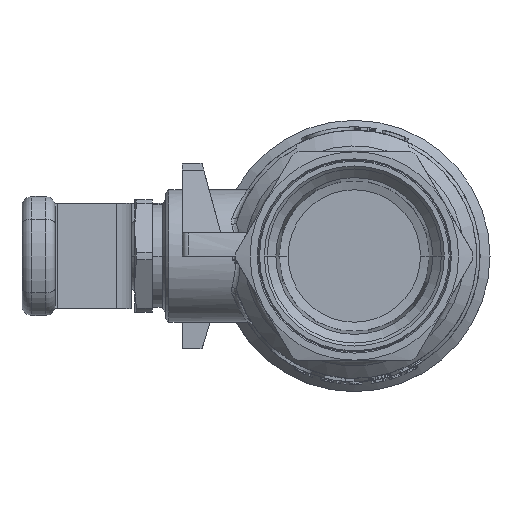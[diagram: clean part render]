
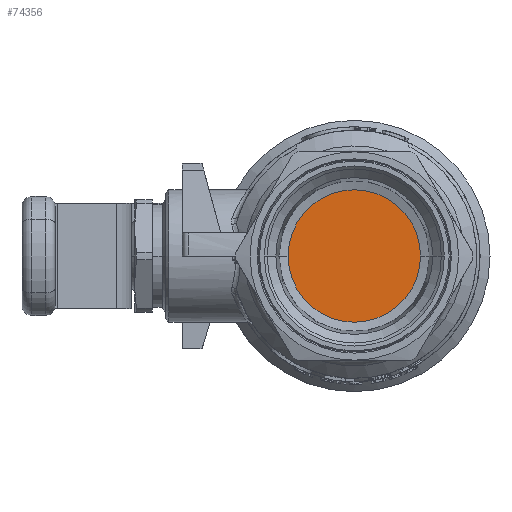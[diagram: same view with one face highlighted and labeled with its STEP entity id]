
A CAD part, left-side view. The second image highlights one B-rep face of the part: STEP entity #74356.
In plain terms, the highlighted planar face has unit normal (-1, 0, 0) by its records, which use the part's own axes.
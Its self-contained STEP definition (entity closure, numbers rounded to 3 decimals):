
#74299=CARTESIAN_POINT('',(-16.35,0.,0.));
#74300=DIRECTION('',(-1.,0.,0.));
#74301=DIRECTION('',(0.,-1.,0.));
#74302=AXIS2_PLACEMENT_3D('',#74299,#74300,#74301);
#74308=CARTESIAN_POINT('',(-16.35,0.,0.));
#74309=DIRECTION('',(1.,0.,0.));
#74310=DIRECTION('',(0.,-1.,0.));
#74311=AXIS2_PLACEMENT_3D('',#74308,#74309,#74310);
#74333=CARTESIAN_POINT('',(-16.35,-13.298,0.));
#74335=VERTEX_POINT('',#74333);
#74337=CARTESIAN_POINT('',(-16.35,13.298,0.));
#74339=VERTEX_POINT('',#74337);
#74345=CARTESIAN_POINT('',(-16.35,0.,0.));
#74346=DIRECTION('',(1.,0.,0.));
#74347=DIRECTION('',(0.,-1.,0.));
#74348=AXIS2_PLACEMENT_3D('',#74345,#74346,#74347);
#74349=PLANE('',#74348);
#74351=ORIENTED_EDGE('',*,*,#74350,.F.);
#74353=ORIENTED_EDGE('',*,*,#74352,.T.);
#74354=EDGE_LOOP('',(#74351,#74353));
#74355=FACE_OUTER_BOUND('',#74354,.F.);
#74356=ADVANCED_FACE('',(#74355),#74349,.F.);
#74303=CIRCLE('',#74302,13.298);
#74312=CIRCLE('',#74311,13.298);
#74350=EDGE_CURVE('',#74335,#74339,#74303,.T.);
#74352=EDGE_CURVE('',#74335,#74339,#74312,.T.);
